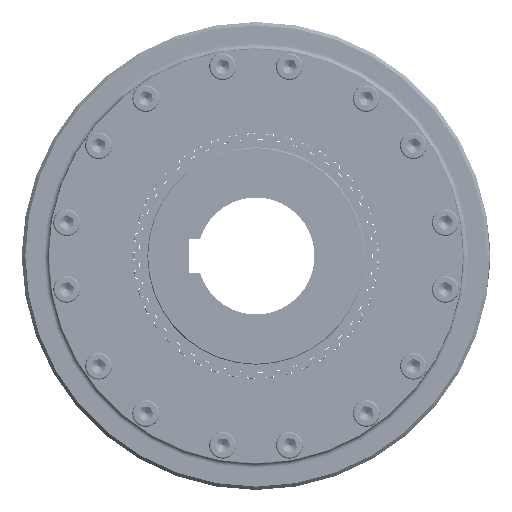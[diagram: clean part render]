
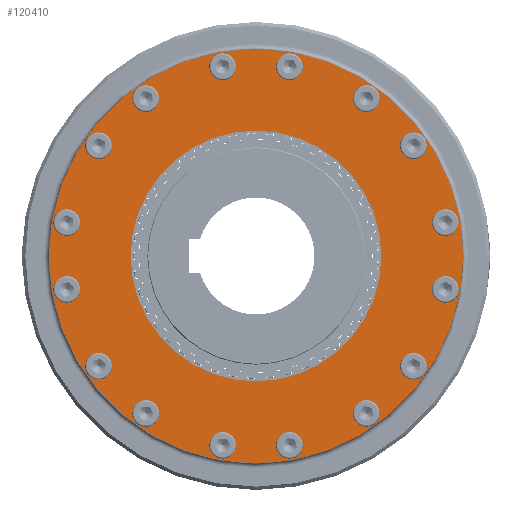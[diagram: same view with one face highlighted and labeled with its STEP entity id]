
A CAD part, left-side view. The second image highlights one B-rep face of the part: STEP entity #120410.
In plain terms, the highlighted planar face has unit normal (-1, 0, 0).
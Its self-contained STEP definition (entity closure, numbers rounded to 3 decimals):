
#502=FACE_BOUND('',#22346,.T.);
#503=FACE_BOUND('',#22347,.T.);
#504=FACE_BOUND('',#22348,.T.);
#505=FACE_BOUND('',#22349,.T.);
#506=FACE_BOUND('',#22350,.T.);
#507=FACE_BOUND('',#22351,.T.);
#508=FACE_BOUND('',#22352,.T.);
#509=FACE_BOUND('',#22353,.T.);
#510=FACE_BOUND('',#22354,.T.);
#511=FACE_BOUND('',#22355,.T.);
#512=FACE_BOUND('',#22356,.T.);
#513=FACE_BOUND('',#22357,.T.);
#514=FACE_BOUND('',#22358,.T.);
#515=FACE_BOUND('',#22359,.T.);
#516=FACE_BOUND('',#22360,.T.);
#517=FACE_BOUND('',#22361,.T.);
#518=FACE_BOUND('',#22362,.T.);
#8898=CIRCLE('',#126291,8.);
#8901=CIRCLE('',#126304,8.);
#8904=CIRCLE('',#126317,8.);
#8907=CIRCLE('',#126330,8.);
#8910=CIRCLE('',#126343,8.);
#8913=CIRCLE('',#126356,8.);
#8916=CIRCLE('',#126369,8.);
#9037=CIRCLE('',#126618,8.);
#9040=CIRCLE('',#126624,75.);
#9058=CIRCLE('',#126646,124.);
#9059=CIRCLE('',#126648,8.);
#9060=CIRCLE('',#126649,8.);
#9061=CIRCLE('',#126650,8.);
#9062=CIRCLE('',#126651,8.);
#9063=CIRCLE('',#126652,8.);
#9064=CIRCLE('',#126653,8.);
#9065=CIRCLE('',#126654,8.);
#9066=CIRCLE('',#126655,8.);
#16465=FACE_OUTER_BOUND('',#22345,.T.);
#22345=EDGE_LOOP('',(#83217));
#22346=EDGE_LOOP('',(#83218));
#22347=EDGE_LOOP('',(#83219));
#22348=EDGE_LOOP('',(#83220));
#22349=EDGE_LOOP('',(#83221));
#22350=EDGE_LOOP('',(#83222));
#22351=EDGE_LOOP('',(#83223));
#22352=EDGE_LOOP('',(#83224));
#22353=EDGE_LOOP('',(#83225));
#22354=EDGE_LOOP('',(#83226));
#22355=EDGE_LOOP('',(#83227));
#22356=EDGE_LOOP('',(#83228));
#22357=EDGE_LOOP('',(#83229));
#22358=EDGE_LOOP('',(#83230));
#22359=EDGE_LOOP('',(#83231));
#22360=EDGE_LOOP('',(#83232));
#22361=EDGE_LOOP('',(#83233));
#22362=EDGE_LOOP('',(#83234));
#51559=VERTEX_POINT('',#211047);
#51574=VERTEX_POINT('',#211105);
#51589=VERTEX_POINT('',#211163);
#51604=VERTEX_POINT('',#211221);
#51619=VERTEX_POINT('',#211279);
#51634=VERTEX_POINT('',#211337);
#51649=VERTEX_POINT('',#211395);
#51843=VERTEX_POINT('',#212507);
#51846=VERTEX_POINT('',#212516);
#51857=VERTEX_POINT('',#212553);
#51858=VERTEX_POINT('',#212556);
#51859=VERTEX_POINT('',#212558);
#51860=VERTEX_POINT('',#212560);
#51861=VERTEX_POINT('',#212562);
#51862=VERTEX_POINT('',#212564);
#51863=VERTEX_POINT('',#212566);
#51864=VERTEX_POINT('',#212568);
#51865=VERTEX_POINT('',#212570);
#63422=EDGE_CURVE('',#51559,#51559,#8898,.T.);
#63443=EDGE_CURVE('',#51574,#51574,#8901,.T.);
#63464=EDGE_CURVE('',#51589,#51589,#8904,.T.);
#63485=EDGE_CURVE('',#51604,#51604,#8907,.T.);
#63506=EDGE_CURVE('',#51619,#51619,#8910,.T.);
#63527=EDGE_CURVE('',#51634,#51634,#8913,.T.);
#63548=EDGE_CURVE('',#51649,#51649,#8916,.T.);
#63790=EDGE_CURVE('',#51843,#51843,#9037,.T.);
#63793=EDGE_CURVE('',#51846,#51846,#9040,.T.);
#63815=EDGE_CURVE('',#51857,#51857,#9058,.T.);
#63816=EDGE_CURVE('',#51858,#51858,#9059,.T.);
#63817=EDGE_CURVE('',#51859,#51859,#9060,.T.);
#63818=EDGE_CURVE('',#51860,#51860,#9061,.T.);
#63819=EDGE_CURVE('',#51861,#51861,#9062,.T.);
#63820=EDGE_CURVE('',#51862,#51862,#9063,.T.);
#63821=EDGE_CURVE('',#51863,#51863,#9064,.T.);
#63822=EDGE_CURVE('',#51864,#51864,#9065,.T.);
#63823=EDGE_CURVE('',#51865,#51865,#9066,.T.);
#83217=ORIENTED_EDGE('',*,*,#63815,.F.);
#83218=ORIENTED_EDGE('',*,*,#63816,.T.);
#83219=ORIENTED_EDGE('',*,*,#63422,.T.);
#83220=ORIENTED_EDGE('',*,*,#63817,.T.);
#83221=ORIENTED_EDGE('',*,*,#63443,.T.);
#83222=ORIENTED_EDGE('',*,*,#63818,.T.);
#83223=ORIENTED_EDGE('',*,*,#63464,.T.);
#83224=ORIENTED_EDGE('',*,*,#63819,.T.);
#83225=ORIENTED_EDGE('',*,*,#63485,.T.);
#83226=ORIENTED_EDGE('',*,*,#63820,.T.);
#83227=ORIENTED_EDGE('',*,*,#63506,.T.);
#83228=ORIENTED_EDGE('',*,*,#63821,.T.);
#83229=ORIENTED_EDGE('',*,*,#63527,.T.);
#83230=ORIENTED_EDGE('',*,*,#63822,.T.);
#83231=ORIENTED_EDGE('',*,*,#63548,.T.);
#83232=ORIENTED_EDGE('',*,*,#63823,.T.);
#83233=ORIENTED_EDGE('',*,*,#63793,.T.);
#83234=ORIENTED_EDGE('',*,*,#63790,.T.);
#116572=PLANE('',#126647);
#120410=ADVANCED_FACE('',(#16465,#502,#503,#504,#505,#506,#507,#508,#509,
#510,#511,#512,#513,#514,#515,#516,#517,#518),#116572,.T.);
#126291=AXIS2_PLACEMENT_3D('',#211048,#138339,#138340);
#126304=AXIS2_PLACEMENT_3D('',#211106,#138377,#138378);
#126317=AXIS2_PLACEMENT_3D('',#211164,#138415,#138416);
#126330=AXIS2_PLACEMENT_3D('',#211222,#138453,#138454);
#126343=AXIS2_PLACEMENT_3D('',#211280,#138491,#138492);
#126356=AXIS2_PLACEMENT_3D('',#211338,#138529,#138530);
#126369=AXIS2_PLACEMENT_3D('',#211396,#138567,#138568);
#126618=AXIS2_PLACEMENT_3D('',#212508,#139165,#139166);
#126624=AXIS2_PLACEMENT_3D('',#212517,#139177,#139178);
#126646=AXIS2_PLACEMENT_3D('',#212554,#139225,#139226);
#126647=AXIS2_PLACEMENT_3D('',#212555,#139227,#139228);
#126648=AXIS2_PLACEMENT_3D('',#212557,#139229,#139230);
#126649=AXIS2_PLACEMENT_3D('',#212559,#139231,#139232);
#126650=AXIS2_PLACEMENT_3D('',#212561,#139233,#139234);
#126651=AXIS2_PLACEMENT_3D('',#212563,#139235,#139236);
#126652=AXIS2_PLACEMENT_3D('',#212565,#139237,#139238);
#126653=AXIS2_PLACEMENT_3D('',#212567,#139239,#139240);
#126654=AXIS2_PLACEMENT_3D('',#212569,#139241,#139242);
#126655=AXIS2_PLACEMENT_3D('',#212571,#139243,#139244);
#138339=DIRECTION('center_axis',(1.,0.,0.));
#138340=DIRECTION('ref_axis',(0.,0.707,0.707));
#138377=DIRECTION('center_axis',(1.,0.,0.));
#138378=DIRECTION('ref_axis',(0.,0.,
1.));
#138415=DIRECTION('center_axis',(1.,0.,0.));
#138416=DIRECTION('ref_axis',(0.,-0.707,0.707));
#138453=DIRECTION('center_axis',(1.,0.,0.));
#138454=DIRECTION('ref_axis',(0.,-1.,0.));
#138491=DIRECTION('center_axis',(1.,0.,0.));
#138492=DIRECTION('ref_axis',(0.,-0.707,-0.707));
#138529=DIRECTION('center_axis',(1.,0.,0.));
#138530=DIRECTION('ref_axis',(0.,0.,
-1.));
#138567=DIRECTION('center_axis',(1.,0.,0.));
#138568=DIRECTION('ref_axis',(0.,0.707,-0.707));
#139165=DIRECTION('center_axis',(1.,0.,0.));
#139166=DIRECTION('ref_axis',(0.,1.,0.));
#139177=DIRECTION('center_axis',(1.,0.,0.));
#139178=DIRECTION('ref_axis',(0.,1.,0.));
#139225=DIRECTION('center_axis',(1.,0.,0.));
#139226=DIRECTION('ref_axis',(0.,1.,0.));
#139227=DIRECTION('center_axis',(-1.,0.,0.));
#139228=DIRECTION('ref_axis',(0.,0.,
1.));
#139229=DIRECTION('center_axis',(1.,0.,0.));
#139230=DIRECTION('ref_axis',(0.,0.707,0.707));
#139231=DIRECTION('center_axis',(1.,0.,0.));
#139232=DIRECTION('ref_axis',(0.,0.,
1.));
#139233=DIRECTION('center_axis',(1.,0.,0.));
#139234=DIRECTION('ref_axis',(0.,-0.707,0.707));
#139235=DIRECTION('center_axis',(1.,0.,0.));
#139236=DIRECTION('ref_axis',(0.,-1.,0.));
#139237=DIRECTION('center_axis',(1.,0.,0.));
#139238=DIRECTION('ref_axis',(0.,-0.707,-0.707));
#139239=DIRECTION('center_axis',(1.,0.,0.));
#139240=DIRECTION('ref_axis',(0.,0.,
-1.));
#139241=DIRECTION('center_axis',(1.,0.,0.));
#139242=DIRECTION('ref_axis',(0.,0.707,-0.707));
#139243=DIRECTION('center_axis',(1.,0.,0.));
#139244=DIRECTION('ref_axis',(0.,1.,0.));
#211047=CARTESIAN_POINT('',(-99.,-14.313,-107.596));
#211048=CARTESIAN_POINT('Origin',(-99.,-19.97,-113.253));
#211105=CARTESIAN_POINT('',(-99.,65.961,-86.202));
#211106=CARTESIAN_POINT('Origin',(-99.,65.961,-94.202));
#211163=CARTESIAN_POINT('',(-99.,107.596,-14.313));
#211164=CARTESIAN_POINT('Origin',(-99.,113.253,-19.97));
#211221=CARTESIAN_POINT('',(-99.,86.202,65.961));
#211222=CARTESIAN_POINT('Origin',(-99.,94.202,65.961));
#211279=CARTESIAN_POINT('',(-99.,14.313,107.596));
#211280=CARTESIAN_POINT('Origin',(-99.,19.97,113.253));
#211337=CARTESIAN_POINT('',(-99.,-65.961,86.202));
#211338=CARTESIAN_POINT('Origin',(-99.,-65.961,94.202));
#211395=CARTESIAN_POINT('',(-99.,-107.596,14.313));
#211396=CARTESIAN_POINT('Origin',(-99.,-113.253,19.97));
#212507=CARTESIAN_POINT('',(-99.,-86.202,-65.961));
#212508=CARTESIAN_POINT('Origin',(-99.,-94.202,-65.961));
#212516=CARTESIAN_POINT('',(-99.,75.,0.));
#212517=CARTESIAN_POINT('Origin',(-99.,0.,0.));
#212553=CARTESIAN_POINT('',(-99.,124.,0.));
#212554=CARTESIAN_POINT('Origin',(-99.,0.,0.));
#212555=CARTESIAN_POINT('Origin',(-99.,99.5,0.));
#212556=CARTESIAN_POINT('',(-99.,-60.304,-88.546));
#212557=CARTESIAN_POINT('Origin',(-99.,-65.961,-94.202));
#212558=CARTESIAN_POINT('',(-99.,19.97,-105.253));
#212559=CARTESIAN_POINT('Origin',(-99.,19.97,-113.253));
#212560=CARTESIAN_POINT('',(-99.,88.546,-60.304));
#212561=CARTESIAN_POINT('Origin',(-99.,94.202,-65.961));
#212562=CARTESIAN_POINT('',(-99.,105.253,19.97));
#212563=CARTESIAN_POINT('Origin',(-99.,113.253,19.97));
#212564=CARTESIAN_POINT('',(-99.,60.304,88.546));
#212565=CARTESIAN_POINT('Origin',(-99.,65.961,94.202));
#212566=CARTESIAN_POINT('',(-99.,-19.97,105.253));
#212567=CARTESIAN_POINT('Origin',(-99.,-19.97,113.253));
#212568=CARTESIAN_POINT('',(-99.,-88.546,60.304));
#212569=CARTESIAN_POINT('Origin',(-99.,-94.202,65.961));
#212570=CARTESIAN_POINT('',(-99.,-105.253,-19.97));
#212571=CARTESIAN_POINT('Origin',(-99.,-113.253,-19.97));
